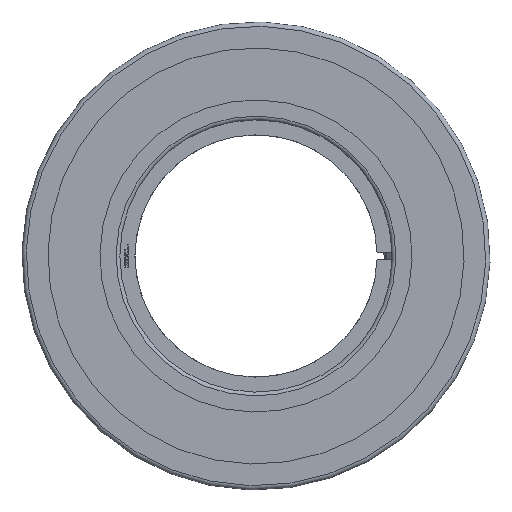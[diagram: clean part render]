
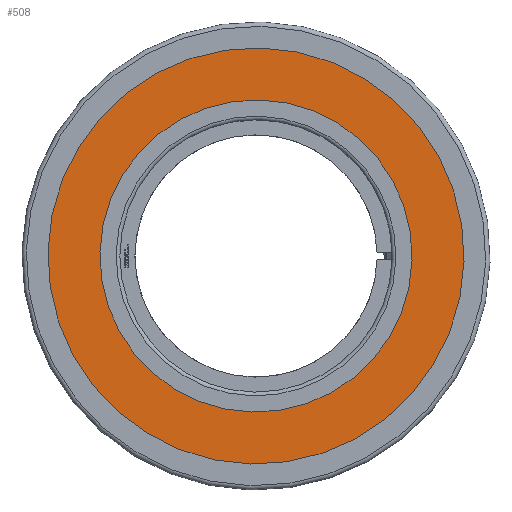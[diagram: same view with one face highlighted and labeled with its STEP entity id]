
A CAD part, left-side view. The second image highlights one B-rep face of the part: STEP entity #508.
In plain terms, the highlighted planar face has unit normal (-1, 0, 0).
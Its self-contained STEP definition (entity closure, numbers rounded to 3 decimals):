
#508 = ADVANCED_FACE( '', ( #1133, #1134 ), #1135, .T. );
#1133 = FACE_BOUND( '', #1906, .T. );
#1134 = FACE_OUTER_BOUND( '', #1907, .T. );
#1135 = PLANE( '', #1908 );
#1906 = EDGE_LOOP( '', ( #4016 ) );
#1907 = EDGE_LOOP( '', ( #4017 ) );
#1908 = AXIS2_PLACEMENT_3D( '', #4018, #4019, #4020 );
#4016 = ORIENTED_EDGE( '', *, *, #5535, .T. );
#4017 = ORIENTED_EDGE( '', *, *, #5534, .F. );
#4018 = CARTESIAN_POINT( '', ( -198.333, 240., 0. ) );
#4019 = DIRECTION( '', ( -1., 0., 0. ) );
#4020 = DIRECTION( '', ( 0., 0., 1. ) );
#5534 = EDGE_CURVE( '', #6792, #6792, #6793, .T. );
#5535 = EDGE_CURVE( '', #6794, #6794, #6795, .T. );
#6792 = VERTEX_POINT( '', #8841 );
#6793 = CIRCLE( '', #8842, 240. );
#6794 = VERTEX_POINT( '', #8843 );
#6795 = CIRCLE( '', #8844, 180. );
#8841 = CARTESIAN_POINT( '', ( -198.333, 0., -240. ) );
#8842 = AXIS2_PLACEMENT_3D( '', #10398, #10399, #10400 );
#8843 = CARTESIAN_POINT( '', ( -198.333, 0., -180. ) );
#8844 = AXIS2_PLACEMENT_3D( '', #10401, #10402, #10403 );
#10398 = CARTESIAN_POINT( '', ( -198.333, 0., 0. ) );
#10399 = DIRECTION( '', ( 1., 0., 0. ) );
#10400 = DIRECTION( '', ( 0., 0., -1. ) );
#10401 = CARTESIAN_POINT( '', ( -198.333, 0., 0. ) );
#10402 = DIRECTION( '', ( 1., 0., 0. ) );
#10403 = DIRECTION( '', ( 0., 0., -1. ) );
